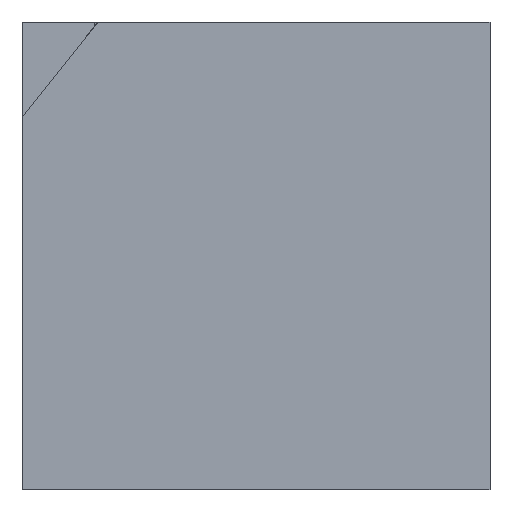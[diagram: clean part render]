
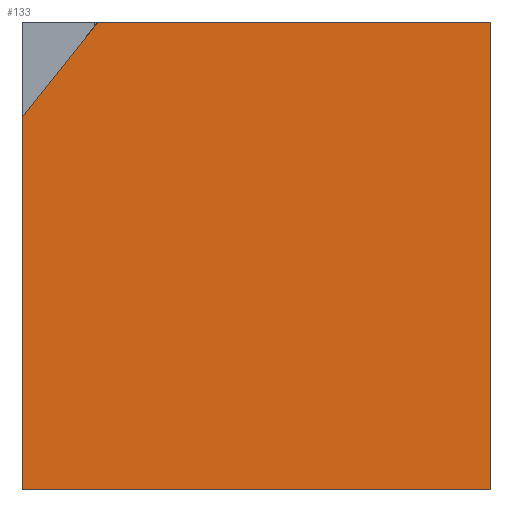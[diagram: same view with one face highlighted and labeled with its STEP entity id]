
A CAD part, left-side view. The second image highlights one B-rep face of the part: STEP entity #133.
In plain terms, the highlighted planar face has unit normal (-1, 0, 0).
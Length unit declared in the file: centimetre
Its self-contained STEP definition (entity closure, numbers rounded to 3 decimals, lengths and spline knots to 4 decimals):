
#43 = LINE ( 'NONE', #279, #442 ) ;
#70 = CARTESIAN_POINT ( 'NONE',  ( 0., 0., 1000. ) ) ;
#81 = VECTOR ( 'NONE', #594, 100. ) ;
#91 = CARTESIAN_POINT ( 'NONE',  ( 0., 0., 0. ) ) ;
#93 = CARTESIAN_POINT ( 'NONE',  ( 0., 837.7307, 1000. ) ) ;
#133 = ADVANCED_FACE ( 'NONE', ( #467 ), #577, .F. ) ;
#138 = DIRECTION ( 'NONE',  ( 0., 0., -1. ) ) ;
#167 = CARTESIAN_POINT ( 'NONE',  ( 0., 1000., 1000. ) ) ;
#175 = VERTEX_POINT ( 'NONE', #91 ) ;
#200 = EDGE_CURVE ( 'NONE', #505, #463, #43, .T. ) ;
#204 = DIRECTION ( 'NONE',  ( 0., -1., 0. ) ) ;
#210 = VERTEX_POINT ( 'NONE', #219 ) ;
#214 = VECTOR ( 'NONE', #204, 100. ) ;
#219 = CARTESIAN_POINT ( 'NONE',  ( 0., 1000., 0. ) ) ;
#241 = LINE ( 'NONE', #609, #430 ) ;
#279 = CARTESIAN_POINT ( 'NONE',  ( 0., 837.7307, 1000. ) ) ;
#340 = EDGE_CURVE ( 'NONE', #505, #210, #241, .T. ) ;
#342 = DIRECTION ( 'NONE',  ( 1., 0., 0. ) ) ;
#378 = EDGE_CURVE ( 'NONE', #210, #175, #569, .T. ) ;
#408 = DIRECTION ( 'NONE',  ( 0., 0., -1. ) ) ;
#409 = VECTOR ( 'NONE', #718, 100. ) ;
#418 = LINE ( 'NONE', #648, #409 ) ;
#427 = LINE ( 'NONE', #70, #81 ) ;
#430 = VECTOR ( 'NONE', #138, 100. ) ;
#433 = AXIS2_PLACEMENT_3D ( 'NONE', #167, #342, #408 ) ;
#442 = VECTOR ( 'NONE', #519, 100. ) ;
#463 = VERTEX_POINT ( 'NONE', #93 ) ;
#467 = FACE_OUTER_BOUND ( 'NONE', #720, .T. ) ;
#489 = CARTESIAN_POINT ( 'NONE',  ( 0., 0., 1000. ) ) ;
#494 = ORIENTED_EDGE ( 'NONE', *, *, #340, .T. ) ;
#505 = VERTEX_POINT ( 'NONE', #638 ) ;
#513 = CARTESIAN_POINT ( 'NONE',  ( 0., 1000., 0. ) ) ;
#514 = ORIENTED_EDGE ( 'NONE', *, *, #676, .F. ) ;
#519 = DIRECTION ( 'NONE',  ( 0., -0.622, 0.783 ) ) ;
#569 = LINE ( 'NONE', #513, #214 ) ;
#577 = PLANE ( 'NONE',  #433 ) ;
#594 = DIRECTION ( 'NONE',  ( 0., 0., -1. ) ) ;
#609 = CARTESIAN_POINT ( 'NONE',  ( 0., 1000., 1000. ) ) ;
#613 = ORIENTED_EDGE ( 'NONE', *, *, #200, .F. ) ;
#621 = ORIENTED_EDGE ( 'NONE', *, *, #378, .T. ) ;
#638 = CARTESIAN_POINT ( 'NONE',  ( 0., 1000., 795.7839 ) ) ;
#648 = CARTESIAN_POINT ( 'NONE',  ( 0., 1000., 1000. ) ) ;
#676 = EDGE_CURVE ( 'NONE', #463, #713, #418, .T. ) ;
#698 = EDGE_CURVE ( 'NONE', #713, #175, #427, .T. ) ;
#705 = ORIENTED_EDGE ( 'NONE', *, *, #698, .F. ) ;
#713 = VERTEX_POINT ( 'NONE', #489 ) ;
#718 = DIRECTION ( 'NONE',  ( 0., -1., 0. ) ) ;
#720 = EDGE_LOOP ( 'NONE', ( #514, #613, #494, #621, #705 ) ) ;
